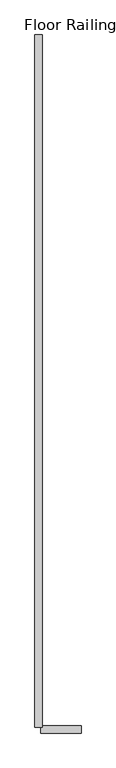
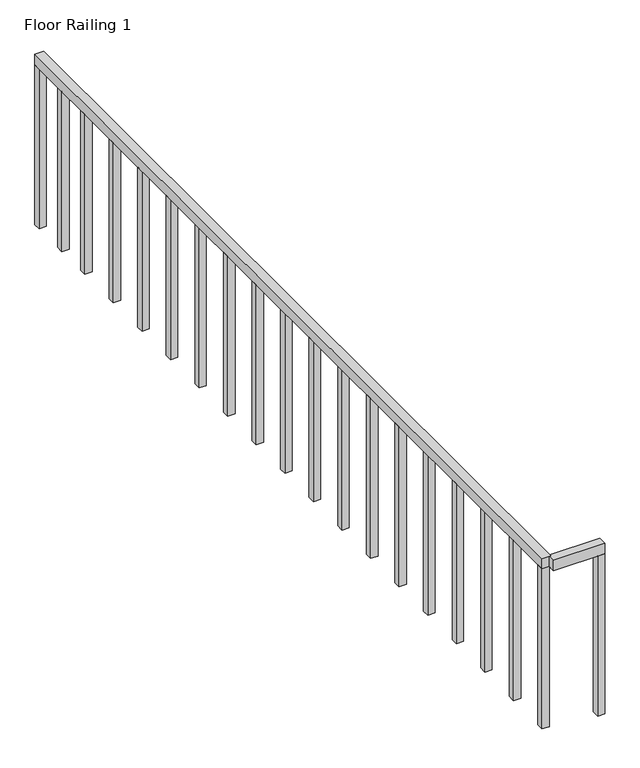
"""IFC4 building model written with IfcOpenShell, lengths in millimetres: railing geometry, Floor Railing 1."""

import ifcopenshell
import ifcopenshell.guid

model = None  # the IFC model being written
_history = None  # IfcOwnerHistory: only IFC2X3 demands one
_inside = {}  # id of a spatial element -> (the spatial element, [elements in it])
_under = {}  # id of a project, library or spatial element -> (it, [spatial elements below it])
_declared = {}  # id of a project -> (the project, [libraries it declares])
_typed = {}  # id of a type object -> (the type object, [elements of that type])
_made_of = {}  # id of a material, layer set ... -> (it, [elements and type objects made of it])


def new_model(schema):
    """Start an empty IFC model of exactly this schema.

    Asked for "IFC4X3", IfcOpenShell would pick the latest addendum, in which some entities
    have other attributes; the version numbers below select the first issue.
    IFC2X3 requires an IfcOwnerHistory on every rooted entity: one is made here for all.
    """
    global model, _history
    if schema == "IFC4X3":
        model = ifcopenshell.file(schema_version=(4, 3, 0, 0))
    else:
        model = ifcopenshell.file(schema=schema)
    _inside.clear()
    _under.clear()
    _declared.clear()
    _typed.clear()
    _made_of.clear()
    _history = None
    if model.schema == "IFC2X3":
        org = make("IfcOrganization", Name="unknown")
        user = make(
            "IfcPersonAndOrganization",
            ThePerson=make("IfcPerson", FamilyName="unknown"),
            TheOrganization=org,
        )
        app = make(
            "IfcApplication",
            ApplicationDeveloper=org,
            Version="unknown",
            ApplicationFullName="unknown",
            ApplicationIdentifier="unknown",
        )
        _history = make(
            "IfcOwnerHistory",
            OwningUser=user,
            OwningApplication=app,
            ChangeAction="ADDED",
            CreationDate=0,
        )
    return model


def make(cls, **values):
    """One entity of the class cls with the attributes given. An attribute that is None is left unset."""
    return model.create_entity(
        cls, **{name: value for name, value in values.items() if value is not None}
    )


def rooted(cls, **values):
    """An entity with a GlobalId (a new one), such as an element, a storey or a relation."""
    return make(cls, GlobalId=ifcopenshell.guid.new(), OwnerHistory=_history, **values)


def si_unit(unit_type, name, prefix=None):
    """IfcSIUnit, for example si_unit("LENGTHUNIT", "METRE", prefix="MILLI")."""
    return make("IfcSIUnit", UnitType=unit_type, Prefix=prefix, Name=name)


def assignment(units):
    """IfcUnitAssignment: the units of a project."""
    return None if units is None else make("IfcUnitAssignment", Units=units)


def point(xyz):
    """IfcCartesianPoint."""
    return None if xyz is None else make("IfcCartesianPoint", Coordinates=xyz)


def direction(xyz):
    """IfcDirection."""
    return None if xyz is None else make("IfcDirection", DirectionRatios=xyz)


def frame(location, z_axis=None, x_axis=None):
    """IfcAxis2Placement3D, a coordinate frame: its origin and axes. An axis left out is left unset."""
    return make(
        "IfcAxis2Placement3D",
        Location=point(location),
        Axis=direction(z_axis),
        RefDirection=direction(x_axis),
    )


def origin():
    """The frame at (0, 0, 0) with its axes left unset."""
    return frame((0.0, 0.0, 0.0))


def place(relative_to, where):
    """IfcLocalPlacement: puts the frame where relative to a parent placement (None: the world)."""
    return make(
        "IfcLocalPlacement", PlacementRelTo=relative_to, RelativePlacement=where
    )


def context(
    kind, dimensions, precision=None, world=None, true_north=None, identifier=None
):
    """IfcGeometricRepresentationContext, for example the 3D "Model" context."""
    return make(
        "IfcGeometricRepresentationContext",
        ContextIdentifier=identifier,
        ContextType=kind,
        CoordinateSpaceDimension=dimensions,
        Precision=precision,
        WorldCoordinateSystem=world,
        TrueNorth=true_north,
    )


def project(units=None, contexts=None):
    """IfcProject with its units and contexts."""
    return rooted(
        "IfcProject",
        Name="project",
        RepresentationContexts=contexts,
        UnitsInContext=assignment(units),
    )


def spatial(cls, under=None, at=None, **own):
    """A site, building, storey or space (cls), placed at a placement, below another one or the project."""
    s = rooted(cls, ObjectPlacement=at, **own)
    if under is not None:
        _under.setdefault(under.id(), (under, []))[1].append(s)
    return s


def polyline(points):
    """IfcPolyline through the points."""
    return make("IfcPolyline", Points=[point(p) for p in points])


def outline(outer, holes=None, kind="AREA"):
    """IfcArbitraryClosedProfileDef: a profile drawn as a closed curve; with holes, ...WithVoids."""
    if holes is None:
        return make("IfcArbitraryClosedProfileDef", ProfileType=kind, OuterCurve=outer)
    return make(
        "IfcArbitraryProfileDefWithVoids",
        ProfileType=kind,
        OuterCurve=outer,
        InnerCurves=holes,
    )


def extrude(swept, where, along, depth):
    """IfcExtrudedAreaSolid: the profile swept, set in the frame where, extruded along a direction by depth."""
    return make(
        "IfcExtrudedAreaSolid",
        SweptArea=swept,
        Position=where,
        ExtrudedDirection=direction(along),
        Depth=depth,
    )


def shape(context_of_items, identifier, shape_type, items):
    """IfcShapeRepresentation: the items that make up one representation, for example the "Body"."""
    return make(
        "IfcShapeRepresentation",
        ContextOfItems=context_of_items,
        RepresentationIdentifier=identifier,
        RepresentationType=shape_type,
        Items=items,
    )


def source(mapping_origin, context_of_items, identifier, shape_type, items):
    """IfcRepresentationMap: a shape defined once, which mapped items show again and again."""
    return make(
        "IfcRepresentationMap",
        MappingOrigin=mapping_origin,
        MappedRepresentation=shape(context_of_items, identifier, shape_type, items),
    )


def transform(
    local_origin,
    x_axis=None,
    y_axis=None,
    z_axis=None,
    scale=None,
    scale2=None,
    scale3=None,
    uniform=True,
):
    """IfcCartesianTransformationOperator3D, or its non-uniform kind. x_axis, y_axis, z_axis: its Axis1, 2, 3."""
    if uniform:
        return make(
            "IfcCartesianTransformationOperator3D",
            Axis1=direction(x_axis),
            Axis2=direction(y_axis),
            LocalOrigin=point(local_origin),
            Scale=scale,
            Axis3=direction(z_axis),
        )
    return make(
        "IfcCartesianTransformationOperator3DnonUniform",
        Axis1=direction(x_axis),
        Axis2=direction(y_axis),
        LocalOrigin=point(local_origin),
        Scale=scale,
        Axis3=direction(z_axis),
        Scale2=scale2,
        Scale3=scale3,
    )


def mapped(mapping_source, mapping_target):
    """IfcMappedItem: shows the shape of a source again, moved by a transform."""
    return make(
        "IfcMappedItem", MappingSource=mapping_source, MappingTarget=mapping_target
    )


def made_of(thing, what):
    """Note that an element or type object is made of a material, layer set ...; save() writes the relation."""
    if what is not None:
        _made_of.setdefault(what.id(), (what, []))[1].append(thing)
    return thing


def element(
    cls,
    number,
    at=None,
    inside=None,
    cuts=None,
    type_object=None,
    material=None,
    context=None,
    identifier="Body",
    shape_type=None,
    held_by="IfcProductDefinitionShape",
    body=None,
    shapes=None,
    **own,
):
    """One element of the class cls, such as IfcWall. Its Tag is "e" and its number.

    at: its placement. inside: the storey or other place that contains it. cuts: it is an
    opening in that element (IfcRelVoidsElement). A single representation is given by context,
    identifier, shape_type and body (its items); several are given by shapes. held_by: the class
    of the entity that holds the representations. save() writes the other relations.
    """
    e = rooted(cls, Tag="e%d" % number, ObjectPlacement=at, **own)
    if body is not None:
        shapes = [shape(context, identifier, shape_type, body)]
    if shapes is not None:
        e.Representation = make(held_by, Representations=shapes)
    if inside is not None:
        _inside.setdefault(inside.id(), (inside, []))[1].append(e)
    if cuts is not None:
        rooted(
            "IfcRelVoidsElement", RelatingBuildingElement=cuts, RelatedOpeningElement=e
        )
    if type_object is not None:
        _typed.setdefault(type_object.id(), (type_object, []))[1].append(e)
    return made_of(e, material)


def aggregate(whole, parts):
    """IfcRelAggregates: a whole, such as a stair, and the parts it consists of."""
    return rooted("IfcRelAggregates", RelatingObject=whole, RelatedObjects=parts)


def save(model, path):
    """Write the relations noted so far, then the file.

    IfcRelAggregates (storeys below a building ...), IfcRelContainedInSpatialStructure (elements
    in a storey), IfcRelDefinesByType, IfcRelAssociatesMaterial and IfcRelDeclares: one each for
    every whole, place, type object, material and project.
    """
    for whole, parts in _under.values():
        aggregate(whole, parts)
    for where, things in _inside.values():
        rooted(
            "IfcRelContainedInSpatialStructure",
            RelatedElements=things,
            RelatingStructure=where,
        )
    for kind, things in _typed.values():
        rooted("IfcRelDefinesByType", RelatedObjects=things, RelatingType=kind)
    for what, things in _made_of.values():
        rooted("IfcRelAssociatesMaterial", RelatedObjects=things, RelatingMaterial=what)
    for by, libraries in _declared.values():
        rooted("IfcRelDeclares", RelatingContext=by, RelatedDefinitions=libraries)
    model.write(path)


def floor_railing_1_7126c992(model_context):
    return source(origin(), model_context, "Body", "SweptSolid", [
        extrude(outline(polyline([(2224.4316411, 51911.486508), (2174.4316411, 51911.486508), (2174.4316411, 56791.461508), (2224.4316411, 56791.461508), (2224.4316411, 51911.486508)])), frame((0.0, 0.0, 4244.8), z_axis=(0.0, 0.0, 1.0), x_axis=(1.0, 0.0, 0.0)), (0.0, 0.0, 1.0), 60.0),
        extrude(outline(polyline([(2214.4316411, 56791.461508), (2214.4316411, 56751.461508), (2174.4316411, 56751.461508), (2174.4316411, 56791.461508), (2214.4316411, 56791.461508)])), frame((0.0, 0.0, 3304.8), z_axis=(0.0, 0.0, 1.0), x_axis=(1.0, 0.0, 0.0)), (0.0, 0.0, 1.0), 940.0),
        extrude(outline(polyline([(2214.4316411, 56571.474008), (2214.4316411, 56531.474008), (2174.4316411, 56531.474008), (2174.4316411, 56571.474008), (2214.4316411, 56571.474008)])), frame((0.0, 0.0, 3304.8), z_axis=(0.0, 0.0, 1.0), x_axis=(1.0, 0.0, 0.0)), (0.0, 0.0, 1.0), 940.0),
        extrude(outline(polyline([(2214.4316411, 56351.486508), (2214.4316411, 56311.486508), (2174.4316411, 56311.486508), (2174.4316411, 56351.486508), (2214.4316411, 56351.486508)])), frame((0.0, 0.0, 3304.8), z_axis=(0.0, 0.0, 1.0), x_axis=(1.0, 0.0, 0.0)), (0.0, 0.0, 1.0), 940.0),
        extrude(outline(polyline([(2214.4316411, 56076.486508), (2214.4316411, 56036.486508), (2174.4316411, 56036.486508), (2174.4316411, 56076.486508), (2214.4316411, 56076.486508)])), frame((0.0, 0.0, 3304.8), z_axis=(0.0, 0.0, 1.0), x_axis=(1.0, 0.0, 0.0)), (0.0, 0.0, 1.0), 940.0),
        extrude(outline(polyline([(2214.4316411, 55801.486508), (2214.4316411, 55761.486508), (2174.4316411, 55761.486508), (2174.4316411, 55801.486508), (2214.4316411, 55801.486508)])), frame((0.0, 0.0, 3304.8), z_axis=(0.0, 0.0, 1.0), x_axis=(1.0, 0.0, 0.0)), (0.0, 0.0, 1.0), 940.0),
        extrude(outline(polyline([(2214.4316411, 55526.486508), (2214.4316411, 55486.486508), (2174.4316411, 55486.486508), (2174.4316411, 55526.486508), (2214.4316411, 55526.486508)])), frame((0.0, 0.0, 3304.8), z_axis=(0.0, 0.0, 1.0), x_axis=(1.0, 0.0, 0.0)), (0.0, 0.0, 1.0), 940.0),
        extrude(outline(polyline([(2214.4316411, 55251.486508), (2214.4316411, 55211.486508), (2174.4316411, 55211.486508), (2174.4316411, 55251.486508), (2214.4316411, 55251.486508)])), frame((0.0, 0.0, 3304.8), z_axis=(0.0, 0.0, 1.0), x_axis=(1.0, 0.0, 0.0)), (0.0, 0.0, 1.0), 940.0),
        extrude(outline(polyline([(2214.4316411, 54976.486508), (2214.4316411, 54936.486508), (2174.4316411, 54936.486508), (2174.4316411, 54976.486508), (2214.4316411, 54976.486508)])), frame((0.0, 0.0, 3304.8), z_axis=(0.0, 0.0, 1.0), x_axis=(1.0, 0.0, 0.0)), (0.0, 0.0, 1.0), 940.0),
        extrude(outline(polyline([(2214.4316411, 54701.486508), (2214.4316411, 54661.486508), (2174.4316411, 54661.486508), (2174.4316411, 54701.486508), (2214.4316411, 54701.486508)])), frame((0.0, 0.0, 3304.8), z_axis=(0.0, 0.0, 1.0), x_axis=(1.0, 0.0, 0.0)), (0.0, 0.0, 1.0), 940.0),
        extrude(outline(polyline([(2214.4316411, 54426.486508), (2214.4316411, 54386.486508), (2174.4316411, 54386.486508), (2174.4316411, 54426.486508), (2214.4316411, 54426.486508)])), frame((0.0, 0.0, 3304.8), z_axis=(0.0, 0.0, 1.0), x_axis=(1.0, 0.0, 0.0)), (0.0, 0.0, 1.0), 940.0),
        extrude(outline(polyline([(2214.4316411, 54151.486508), (2214.4316411, 54111.486508), (2174.4316411, 54111.486508), (2174.4316411, 54151.486508), (2214.4316411, 54151.486508)])), frame((0.0, 0.0, 3304.8), z_axis=(0.0, 0.0, 1.0), x_axis=(1.0, 0.0, 0.0)), (0.0, 0.0, 1.0), 940.0),
        extrude(outline(polyline([(2214.4316411, 53876.486508), (2214.4316411, 53836.486508), (2174.4316411, 53836.486508), (2174.4316411, 53876.486508), (2214.4316411, 53876.486508)])), frame((0.0, 0.0, 3304.8), z_axis=(0.0, 0.0, 1.0), x_axis=(1.0, 0.0, 0.0)), (0.0, 0.0, 1.0), 940.0),
        extrude(outline(polyline([(2214.4316411, 53601.486508), (2214.4316411, 53561.486508), (2174.4316411, 53561.486508), (2174.4316411, 53601.486508), (2214.4316411, 53601.486508)])), frame((0.0, 0.0, 3304.8), z_axis=(0.0, 0.0, 1.0), x_axis=(1.0, 0.0, 0.0)), (0.0, 0.0, 1.0), 940.0),
        extrude(outline(polyline([(2214.4316411, 53326.486508), (2214.4316411, 53286.486508), (2174.4316411, 53286.486508), (2174.4316411, 53326.486508), (2214.4316411, 53326.486508)])), frame((0.0, 0.0, 3304.8), z_axis=(0.0, 0.0, 1.0), x_axis=(1.0, 0.0, 0.0)), (0.0, 0.0, 1.0), 940.0),
        extrude(outline(polyline([(2214.4316411, 53051.486508), (2214.4316411, 53011.486508), (2174.4316411, 53011.486508), (2174.4316411, 53051.486508), (2214.4316411, 53051.486508)])), frame((0.0, 0.0, 3304.8), z_axis=(0.0, 0.0, 1.0), x_axis=(1.0, 0.0, 0.0)), (0.0, 0.0, 1.0), 940.0),
        extrude(outline(polyline([(2214.4316411, 52776.486508), (2214.4316411, 52736.486508), (2174.4316411, 52736.486508), (2174.4316411, 52776.486508), (2214.4316411, 52776.486508)])), frame((0.0, 0.0, 3304.8), z_axis=(0.0, 0.0, 1.0), x_axis=(1.0, 0.0, 0.0)), (0.0, 0.0, 1.0), 940.0),
        extrude(outline(polyline([(2214.4316411, 52501.486508), (2214.4316411, 52461.486508), (2174.4316411, 52461.486508), (2174.4316411, 52501.486508), (2214.4316411, 52501.486508)])), frame((0.0, 0.0, 3304.8), z_axis=(0.0, 0.0, 1.0), x_axis=(1.0, 0.0, 0.0)), (0.0, 0.0, 1.0), 940.0),
        extrude(outline(polyline([(2214.4316411, 52226.486508), (2214.4316411, 52186.486508), (2174.4316411, 52186.486508), (2174.4316411, 52226.486508), (2214.4316411, 52226.486508)])), frame((0.0, 0.0, 3304.8), z_axis=(0.0, 0.0, 1.0), x_axis=(1.0, 0.0, 0.0)), (0.0, 0.0, 1.0), 940.0),
        extrude(outline(polyline([(2214.4316411, 51951.486508), (2214.4316411, 51911.486508), (2174.4316411, 51911.486508), (2174.4316411, 51951.486508), (2214.4316411, 51951.486508)])), frame((0.0, 0.0, 3304.8), z_axis=(0.0, 0.0, 1.0), x_axis=(1.0, 0.0, 0.0)), (0.0, 0.0, 1.0), 940.0),
        extrude(outline(polyline([(2499.6480231, 51921.486508), (2499.6480231, 51871.486508), (2214.4316411, 51871.486508), (2214.4316411, 51921.486508), (2499.6480231, 51921.486508)])), frame((0.0, 0.0, 4244.8), z_axis=(0.0, 0.0, 1.0), x_axis=(1.0, 0.0, 0.0)), (0.0, 0.0, 1.0), 60.0),
        extrude(outline(polyline([(2459.6480231, 51911.486508), (2499.6480231, 51911.486508), (2499.6480231, 51871.486508), (2459.6480231, 51871.486508), (2459.6480231, 51911.486508)])), frame((0.0, 0.0, 3304.8), z_axis=(0.0, 0.0, 1.0), x_axis=(1.0, 0.0, 0.0)), (0.0, 0.0, 1.0), 940.0),
    ])


if __name__ == "__main__":
    model = new_model("IFC4")
    model_context = context("Model", 3, world=origin())
    ifc_project = project(units=[si_unit("LENGTHUNIT", "METRE", prefix="MILLI")], contexts=[model_context])
    site = spatial("IfcSite", under=ifc_project)
    building = spatial("IfcBuilding", under=site)
    placement = place(None, origin())
    floor_railing_1_shape = floor_railing_1_7126c992(model_context)
    element("IfcRailing", 1, ObjectType="Floor Railing 1", at=placement, inside=building, context=model_context, shape_type="MappedRepresentation", body=[
        mapped(floor_railing_1_shape, transform((0.0, 0.0, 0.0), x_axis=(1.0, 0.0, 0.0), y_axis=(0.0, 1.0, 0.0), z_axis=(0.0, 0.0, 1.0))),
    ])
    save(model, "model.ifc")
